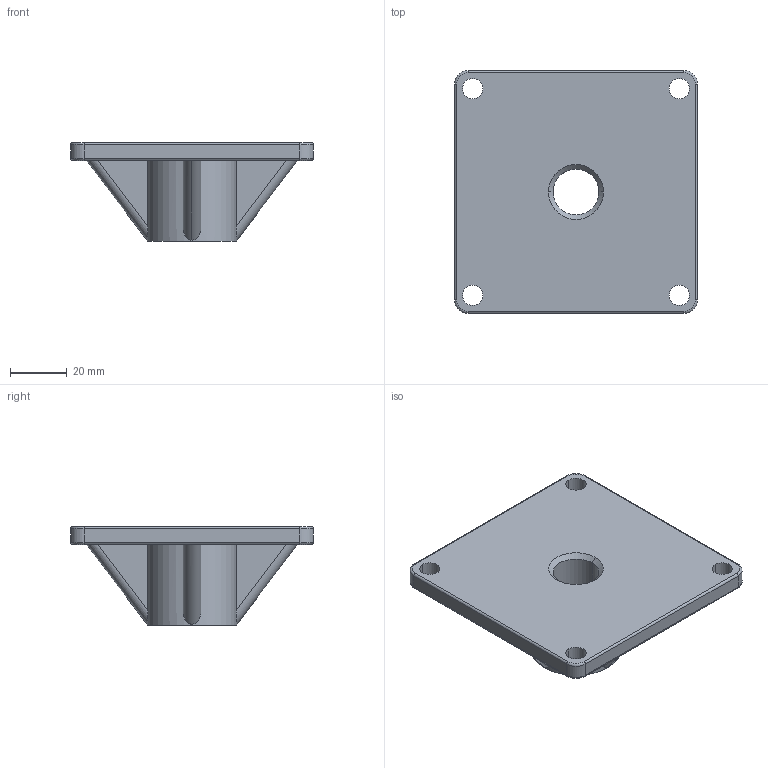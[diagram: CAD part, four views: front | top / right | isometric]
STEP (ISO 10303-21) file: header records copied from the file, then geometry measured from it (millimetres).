
FILE_DESCRIPTION (( 'STEP AP214' ), '1' );
FILE_NAME ('H020062100.STEP', '2014-02-11T15:47:11', ( 'Eric_Werenskjold' ), ( '' ), 'SwSTEP 2.0', 'SolidWorks 2014', '' );
FILE_SCHEMA (( 'AUTOMOTIVE_DESIGN' ));
Length unit declared in the file: inch
Products named in the file (1): H020062100
Bounding box: 85.72 x 85.72 x 34.92 mm (x, y, z)
Volume: 67802.3 mm3; surface area: 22704.6 mm2
Topology: 1 solids, 1 shells, 59 faces, 145 edges, 91 vertices
Faces by surface type: cylinder 30, plane 17, torus 8, cone 4
Entity records: 1964 total; most frequent: CARTESIAN_POINT 457, DIRECTION 318, ORIENTED_EDGE 290, EDGE_CURVE 145, AXIS2_PLACEMENT_3D 126, VERTEX_POINT 91, EDGE_LOOP 72, CIRCLE 66
